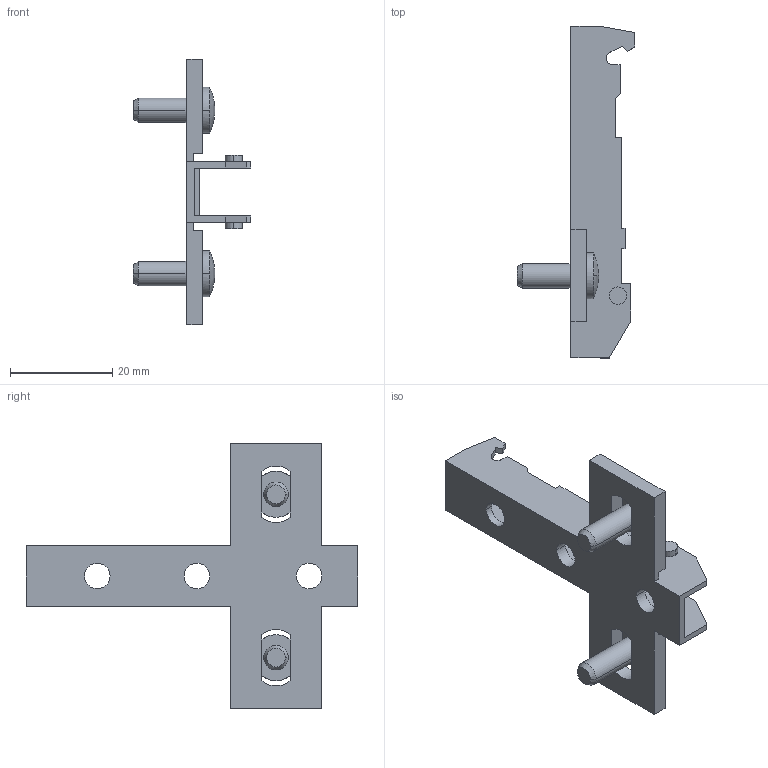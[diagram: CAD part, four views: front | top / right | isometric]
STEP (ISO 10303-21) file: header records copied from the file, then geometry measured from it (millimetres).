
FILE_DESCRIPTION (( 'STEP AP214' ), '1' );
FILE_NAME ('Eco Kreuzmontageplatte LR28_32_Euro_vorm. 13,5mm_H02.step', '2010-11-18T10:06:06', ( 'grass' ), ( '' ), 'SwSTEP 2.0', 'SolidWorks 2010', '' );
FILE_SCHEMA (( 'AUTOMOTIVE_DESIGN' ));
Length unit declared in the file: millimetre
Products named in the file (1): Eco Kreuzmontageplatte LR28_32_Euro_vorm. 13,5mm_H02
Bounding box: 23 x 65 x 52 mm (x, y, z)
Volume: 5058.2 mm3; surface area: 6420.6 mm2
Topology: 1 solids, 1 shells, 102 faces, 290 edges, 190 vertices
Faces by surface type: plane 70, cylinder 24, sphere 4, cone 4
Entity records: 3364 total; most frequent: CARTESIAN_POINT 583, ORIENTED_EDGE 580, DIRECTION 564, EDGE_CURVE 290, VECTOR 222, LINE 222, VERTEX_POINT 190, AXIS2_PLACEMENT_3D 171
